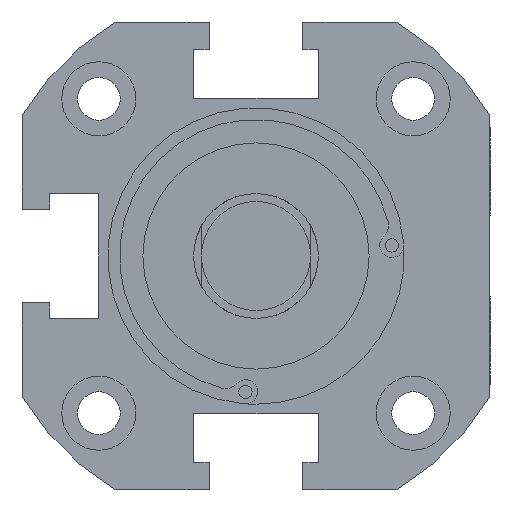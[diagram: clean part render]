
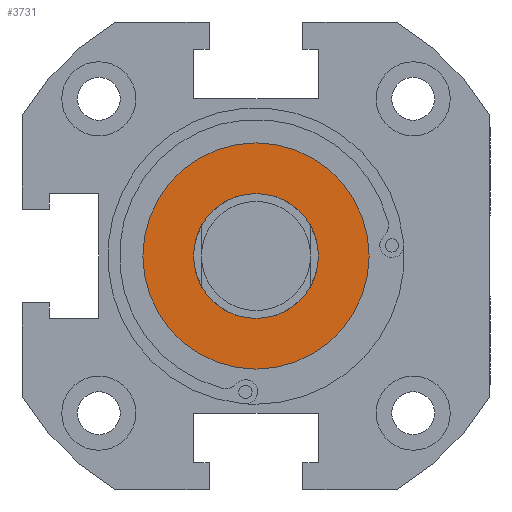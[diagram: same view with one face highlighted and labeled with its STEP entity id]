
A CAD part, front view. The second image highlights one B-rep face of the part: STEP entity #3731.
In plain terms, the highlighted planar face has unit normal (0, -1, 0).
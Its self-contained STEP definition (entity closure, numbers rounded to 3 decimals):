
#5 = VERTEX_POINT ( 'NONE', #337 ) ;
#34 = CIRCLE ( 'NONE', #4077, 8. ) ;
#44 = CARTESIAN_POINT ( 'NONE',  ( 0., -38., 0. ) ) ;
#311 = FACE_OUTER_BOUND ( 'NONE', #4500, .T. ) ;
#317 = CIRCLE ( 'NONE', #613, 14.5 ) ;
#337 = CARTESIAN_POINT ( 'NONE',  ( 0., -38., 8. ) ) ;
#400 = ORIENTED_EDGE ( 'NONE', *, *, #3268, .F. ) ;
#572 = CIRCLE ( 'NONE', #665, 8. ) ;
#594 = EDGE_LOOP ( 'NONE', ( #3910, #1588 ) ) ;
#613 = AXIS2_PLACEMENT_3D ( 'NONE', #44, #692, #2815 ) ;
#665 = AXIS2_PLACEMENT_3D ( 'NONE', #1801, #4291, #4273 ) ;
#692 = DIRECTION ( 'NONE',  ( 0., 1., 0. ) ) ;
#709 = DIRECTION ( 'NONE',  ( 0., 1., 0. ) ) ;
#1239 = DIRECTION ( 'NONE',  ( 0., 0., 1. ) ) ;
#1374 = VERTEX_POINT ( 'NONE', #4141 ) ;
#1548 = EDGE_CURVE ( 'NONE', #5, #3735, #34, .T. ) ;
#1588 = ORIENTED_EDGE ( 'NONE', *, *, #3841, .T. ) ;
#1801 = CARTESIAN_POINT ( 'NONE',  ( 0., -38., 0. ) ) ;
#1815 = AXIS2_PLACEMENT_3D ( 'NONE', #4097, #1913, #1239 ) ;
#1877 = CIRCLE ( 'NONE', #1815, 14.5 ) ;
#1913 = DIRECTION ( 'NONE',  ( 0., 1., 0. ) ) ;
#1978 = DIRECTION ( 'NONE',  ( 0., 1., 0. ) ) ;
#2361 = DIRECTION ( 'NONE',  ( 0., 0., 1. ) ) ;
#2436 = ORIENTED_EDGE ( 'NONE', *, *, #2556, .F. ) ;
#2556 = EDGE_CURVE ( 'NONE', #3463, #1374, #1877, .T. ) ;
#2639 = PLANE ( 'NONE',  #4398 ) ;
#2815 = DIRECTION ( 'NONE',  ( 0., 0., 1. ) ) ;
#3198 = DIRECTION ( 'NONE',  ( 0., 0., 1. ) ) ;
#3230 = CARTESIAN_POINT ( 'NONE',  ( 0., -38., -14.5 ) ) ;
#3268 = EDGE_CURVE ( 'NONE', #1374, #3463, #317, .T. ) ;
#3463 = VERTEX_POINT ( 'NONE', #3230 ) ;
#3709 = FACE_BOUND ( 'NONE', #594, .T. ) ;
#3731 = ADVANCED_FACE ( 'NONE', ( #311, #3709 ), #2639, .F. ) ;
#3735 = VERTEX_POINT ( 'NONE', #3796 ) ;
#3796 = CARTESIAN_POINT ( 'NONE',  ( 0., -38., -8. ) ) ;
#3841 = EDGE_CURVE ( 'NONE', #3735, #5, #572, .T. ) ;
#3910 = ORIENTED_EDGE ( 'NONE', *, *, #1548, .T. ) ;
#3921 = CARTESIAN_POINT ( 'NONE',  ( 0., -38., 0. ) ) ;
#4077 = AXIS2_PLACEMENT_3D ( 'NONE', #3921, #709, #3198 ) ;
#4097 = CARTESIAN_POINT ( 'NONE',  ( 0., -38., 0. ) ) ;
#4141 = CARTESIAN_POINT ( 'NONE',  ( 0., -38., 14.5 ) ) ;
#4273 = DIRECTION ( 'NONE',  ( 0., 0., 1. ) ) ;
#4291 = DIRECTION ( 'NONE',  ( 0., 1., 0. ) ) ;
#4398 = AXIS2_PLACEMENT_3D ( 'NONE', #4446, #1978, #2361 ) ;
#4446 = CARTESIAN_POINT ( 'NONE',  ( 0., -38., 0. ) ) ;
#4500 = EDGE_LOOP ( 'NONE', ( #2436, #400 ) ) ;
